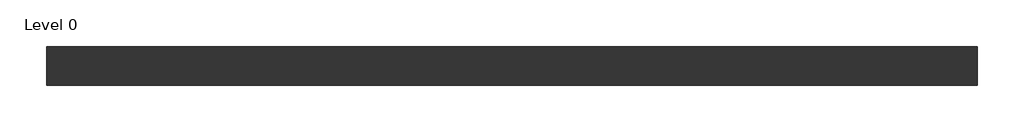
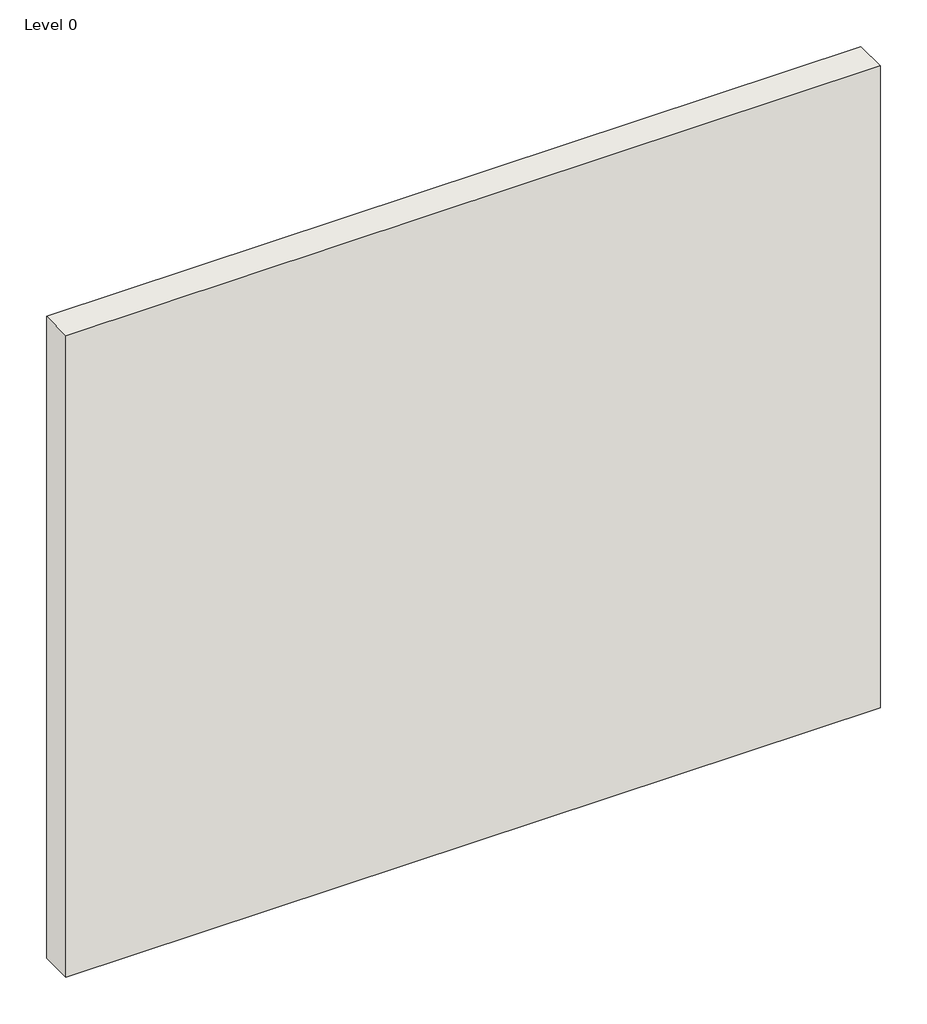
# One storey: 1 wall.
"""IFC4 building model written with IfcOpenShell, lengths in millimetres."""

from ifc_helpers import new_model, si_unit, origin, origin_with_axes, place, context, project, spatial, polyline, outline, extrude, element, save

model = new_model("IFC4")

# Units and contexts
model_context = context("Model", 3, world=origin())
ifc_project = project(units=[si_unit("LENGTHUNIT", "METRE", prefix="MILLI")], contexts=[model_context])

# Site, building, storey
site = spatial("IfcSite", under=ifc_project)
building = spatial("IfcBuilding", under=site)
storey = spatial("IfcBuildingStorey", under=building, Name="Level 0", Elevation=0.0)

# Wall
placement = place(None, origin())
element("IfcWall", 1, ObjectType="A306025 - ShaftWall", at=placement, inside=storey, context=model_context, shape_type="SweptSolid", body=[
    extrude(outline(polyline([(2116.0807354, 531.7205641), (-883.9192646, 531.7205641), (-883.9192646, 655.7205641), (2116.0807354, 655.7205641), (2116.0807354, 531.7205641)])), origin_with_axes(), (0.0, 0.0, 1.0), 2500.0),
])

save(model, "model.ifc")
